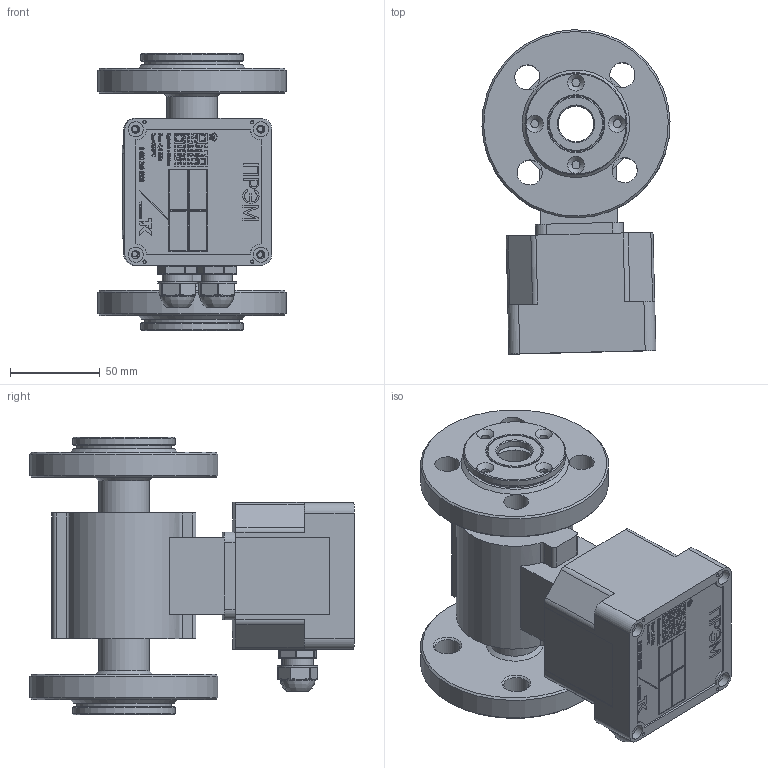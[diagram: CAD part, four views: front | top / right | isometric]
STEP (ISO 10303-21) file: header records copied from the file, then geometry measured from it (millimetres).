
FILE_DESCRIPTION(/* description */ (''),/* implementation_level */ '2;1');
FILE_NAME(/* name */ 'C:\ТЭК\Реклама\ПРЭМ-20F.stp',/* time_stamp */ '2019-12-03T16:36:22+03:00',/* author */ ('Kishalov.m'),/* organization */ (''),/* preprocessor_version */ 'ST-DEVELOPER v18',/* originating_system */ 'Autodesk Inventor 2020',/* authorisation */ '');
FILE_SCHEMA (('AUTOMOTIVE_DESIGN { 1 0 10303 214 3 1 1 }'));
Products named in the file (1): ПРЭМ-20F
Bounding box: 104.97 x 180.94 x 155 mm (x, y, z)
Volume: 661538.3 mm3; surface area: 164808.4 mm2
Topology: 4 solids, 4 shells, 2071 faces, 5406 edges, 3453 vertices
Faces by surface type: plane 1223, bspline 449, cylinder 289, sphere 60, cone 46, torus 4
Full cylindrical faces by diameter (mm): 0.431 x1, 0.546 x1, 1.159 x2, 1.5 x2, 1.7 x4, 1.8 x8, 2.5 x4, 3.242 x4, 4.2 x1, 4.5 x12, 4.7 x4, 5.472 x1, 5.5 x3, 7.5 x4, 8.5 x4, 11 x8, 12 x2, 13 x2, 14 x8, 17 x6, 19.094 x2, 20 x2, 20.5 x1, 24 x1, 28 x2, 28.746 x2, 52.855 x2, 57 x2, 105 x2
Entity records: 69627 total; most frequent: CARTESIAN_POINT 19705, ORIENTED_EDGE 10636, DIRECTION 8350, EDGE_CURVE 5318, LINE 3652, VECTOR 3652, VERTEX_POINT 3452, AXIS2_PLACEMENT_3D 2349
